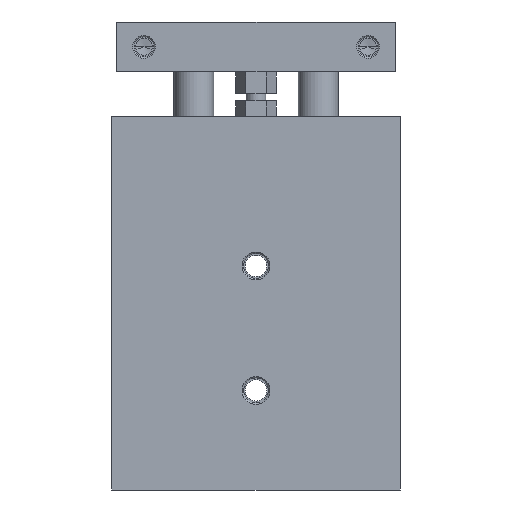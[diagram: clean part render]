
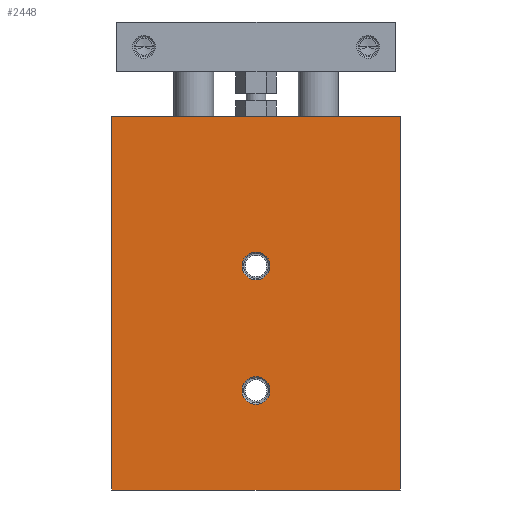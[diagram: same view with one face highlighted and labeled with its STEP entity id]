
A CAD part, front view. The second image highlights one B-rep face of the part: STEP entity #2448.
In plain terms, the highlighted planar face has unit normal (0, -1, 0).
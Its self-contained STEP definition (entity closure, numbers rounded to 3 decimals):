
#52 = CARTESIAN_POINT ( 'NONE',  ( 0., -10., 29. ) ) ;
#143 = EDGE_CURVE ( 'NONE', #269, #6418, #6843, .T. ) ;
#230 = EDGE_CURVE ( 'NONE', #1584, #733, #2341, .T. ) ;
#261 = AXIS2_PLACEMENT_3D ( 'NONE', #1223, #2128, #1091 ) ;
#269 = VERTEX_POINT ( 'NONE', #1085 ) ;
#367 = LINE ( 'NONE', #1490, #1469 ) ;
#407 = CARTESIAN_POINT ( 'NONE',  ( 75., -10., 29. ) ) ;
#461 = ORIENTED_EDGE ( 'NONE', *, *, #6281, .F. ) ;
#504 = CARTESIAN_POINT ( 'NONE',  ( 55., -10., -2.8 ) ) ;
#585 = DIRECTION ( 'NONE',  ( 0., -1., 0. ) ) ;
#631 = EDGE_LOOP ( 'NONE', ( #3590, #6586 ) ) ;
#733 = VERTEX_POINT ( 'NONE', #1791 ) ;
#928 = DIRECTION ( 'NONE',  ( 0., 0., 1. ) ) ;
#936 = ORIENTED_EDGE ( 'NONE', *, *, #2049, .T. ) ;
#1059 = AXIS2_PLACEMENT_3D ( 'NONE', #6830, #6793, #928 ) ;
#1063 = ORIENTED_EDGE ( 'NONE', *, *, #230, .F. ) ;
#1085 = CARTESIAN_POINT ( 'NONE',  ( 75., -10., 29. ) ) ;
#1091 = DIRECTION ( 'NONE',  ( 0., 0., -1. ) ) ;
#1119 = CARTESIAN_POINT ( 'NONE',  ( 75., -10., 29. ) ) ;
#1223 = CARTESIAN_POINT ( 'NONE',  ( 55., -10., 0. ) ) ;
#1408 = EDGE_CURVE ( 'NONE', #269, #4297, #5569, .T. ) ;
#1469 = VECTOR ( 'NONE', #2523, 1000. ) ;
#1490 = CARTESIAN_POINT ( 'NONE',  ( 0., -10., 29. ) ) ;
#1527 = EDGE_CURVE ( 'NONE', #2632, #5729, #6801, .T. ) ;
#1584 = VERTEX_POINT ( 'NONE', #504 ) ;
#1590 = AXIS2_PLACEMENT_3D ( 'NONE', #5314, #4891, #3227 ) ;
#1722 = EDGE_CURVE ( 'NONE', #733, #1584, #6227, .T. ) ;
#1791 = CARTESIAN_POINT ( 'NONE',  ( 55., -10., 2.8 ) ) ;
#1925 = DIRECTION ( 'NONE',  ( 0., -1., 0. ) ) ;
#2049 = EDGE_CURVE ( 'NONE', #4297, #5788, #367, .T. ) ;
#2128 = DIRECTION ( 'NONE',  ( 0., -1., 0. ) ) ;
#2286 = EDGE_LOOP ( 'NONE', ( #936, #461, #3988, #3466 ) ) ;
#2341 = CIRCLE ( 'NONE', #1590, 2.8 ) ;
#2448 = ADVANCED_FACE ( 'NONE', ( #3536, #2970, #4638 ), #2474, .F. ) ;
#2474 = PLANE ( 'NONE',  #1059 ) ;
#2523 = DIRECTION ( 'NONE',  ( 0., 0., -1. ) ) ;
#2571 = VECTOR ( 'NONE', #4109, 1000. ) ;
#2632 = VERTEX_POINT ( 'NONE', #6452 ) ;
#2674 = DIRECTION ( 'NONE',  ( 0., 0., -1. ) ) ;
#2958 = CARTESIAN_POINT ( 'NONE',  ( 75., -10., -29. ) ) ;
#2961 = EDGE_CURVE ( 'NONE', #5729, #2632, #4935, .T. ) ;
#2970 = FACE_BOUND ( 'NONE', #3014, .T. ) ;
#3014 = EDGE_LOOP ( 'NONE', ( #1063, #6123 ) ) ;
#3048 = CARTESIAN_POINT ( 'NONE',  ( 30., -10., 2.8 ) ) ;
#3227 = DIRECTION ( 'NONE',  ( 0., 0., -1. ) ) ;
#3234 = VECTOR ( 'NONE', #4750, 1000. ) ;
#3466 = ORIENTED_EDGE ( 'NONE', *, *, #1408, .T. ) ;
#3490 = CARTESIAN_POINT ( 'NONE',  ( 30., -10., 0. ) ) ;
#3536 = FACE_BOUND ( 'NONE', #631, .T. ) ;
#3590 = ORIENTED_EDGE ( 'NONE', *, *, #1527, .F. ) ;
#3988 = ORIENTED_EDGE ( 'NONE', *, *, #143, .F. ) ;
#4109 = DIRECTION ( 'NONE',  ( -1., 0., 0. ) ) ;
#4297 = VERTEX_POINT ( 'NONE', #52 ) ;
#4493 = LINE ( 'NONE', #2958, #5612 ) ;
#4638 = FACE_OUTER_BOUND ( 'NONE', #2286, .T. ) ;
#4750 = DIRECTION ( 'NONE',  ( 0., 0., -1. ) ) ;
#4891 = DIRECTION ( 'NONE',  ( 0., -1., 0. ) ) ;
#4935 = CIRCLE ( 'NONE', #6050, 2.8 ) ;
#5142 = CARTESIAN_POINT ( 'NONE',  ( 75., -10., -29. ) ) ;
#5314 = CARTESIAN_POINT ( 'NONE',  ( 55., -10., 0. ) ) ;
#5324 = CARTESIAN_POINT ( 'NONE',  ( 30., -10., 0. ) ) ;
#5569 = LINE ( 'NONE', #407, #2571 ) ;
#5612 = VECTOR ( 'NONE', #6615, 1000. ) ;
#5729 = VERTEX_POINT ( 'NONE', #3048 ) ;
#5788 = VERTEX_POINT ( 'NONE', #6144 ) ;
#6050 = AXIS2_PLACEMENT_3D ( 'NONE', #3490, #1925, #6162 ) ;
#6123 = ORIENTED_EDGE ( 'NONE', *, *, #1722, .F. ) ;
#6144 = CARTESIAN_POINT ( 'NONE',  ( 0., -10., -29. ) ) ;
#6162 = DIRECTION ( 'NONE',  ( 0., 0., -1. ) ) ;
#6227 = CIRCLE ( 'NONE', #261, 2.8 ) ;
#6281 = EDGE_CURVE ( 'NONE', #6418, #5788, #4493, .T. ) ;
#6418 = VERTEX_POINT ( 'NONE', #5142 ) ;
#6452 = CARTESIAN_POINT ( 'NONE',  ( 30., -10., -2.8 ) ) ;
#6470 = AXIS2_PLACEMENT_3D ( 'NONE', #5324, #585, #2674 ) ;
#6586 = ORIENTED_EDGE ( 'NONE', *, *, #2961, .F. ) ;
#6615 = DIRECTION ( 'NONE',  ( -1., 0., 0. ) ) ;
#6793 = DIRECTION ( 'NONE',  ( 0., 1., 0. ) ) ;
#6801 = CIRCLE ( 'NONE', #6470, 2.8 ) ;
#6830 = CARTESIAN_POINT ( 'NONE',  ( 75., -10., 29. ) ) ;
#6843 = LINE ( 'NONE', #1119, #3234 ) ;
